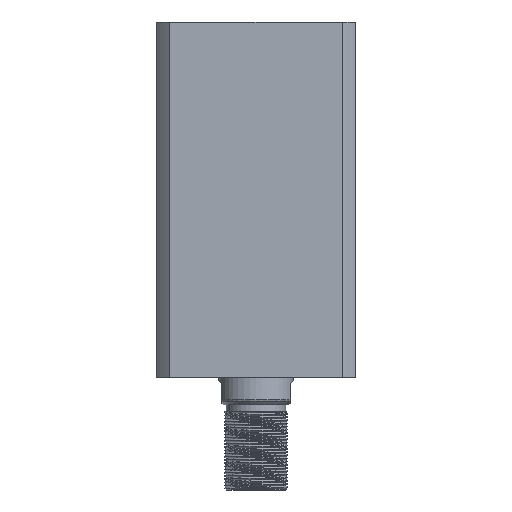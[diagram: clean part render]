
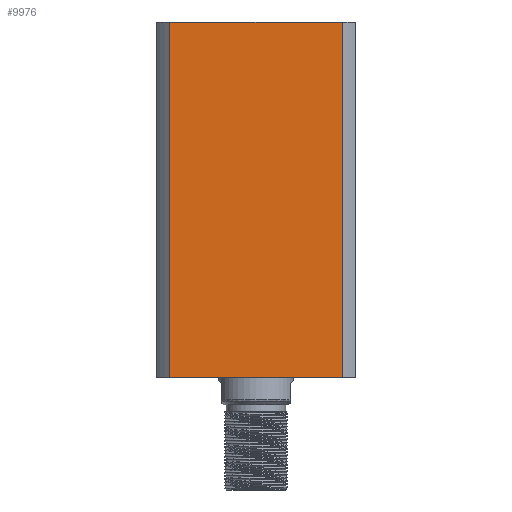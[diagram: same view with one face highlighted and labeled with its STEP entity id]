
A CAD part, front view. The second image highlights one B-rep face of the part: STEP entity #9976.
In plain terms, the highlighted planar face has unit normal (0, -1, 0) as drawn and (0, 1, 0) by its records, which use the part's own axes.
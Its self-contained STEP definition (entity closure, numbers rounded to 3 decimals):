
#1450 = DIRECTION ( 'NONE',  ( -1., 0., 0. ) ) ;
#1824 = CARTESIAN_POINT ( 'NONE',  ( -47., 47., 0. ) ) ;
#2117 = VERTEX_POINT ( 'NONE', #14308 ) ;
#2176 = PLANE ( 'NONE',  #3071 ) ;
#2489 = CARTESIAN_POINT ( 'NONE',  ( -40.435, 47., -2833. ) ) ;
#2600 = LINE ( 'NONE', #12973, #16050 ) ;
#3071 = AXIS2_PLACEMENT_3D ( 'NONE', #5552, #14530, #3926 ) ;
#3182 = CARTESIAN_POINT ( 'NONE',  ( -47., 47., 167. ) ) ;
#3219 = EDGE_CURVE ( 'NONE', #14802, #2117, #2600, .T. ) ;
#3347 = FACE_OUTER_BOUND ( 'NONE', #11949, .T. ) ;
#3649 = LINE ( 'NONE', #2489, #12522 ) ;
#3926 = DIRECTION ( 'NONE',  ( 0., 0., -1. ) ) ;
#4701 = CARTESIAN_POINT ( 'NONE',  ( -40.435, 47., 167. ) ) ;
#5552 = CARTESIAN_POINT ( 'NONE',  ( -47., 47., 167. ) ) ;
#5617 = VERTEX_POINT ( 'NONE', #4701 ) ;
#7034 = ORIENTED_EDGE ( 'NONE', *, *, #17522, .T. ) ;
#7314 = EDGE_CURVE ( 'NONE', #5617, #7616, #3649, .T. ) ;
#7616 = VERTEX_POINT ( 'NONE', #10117 ) ;
#7874 = ORIENTED_EDGE ( 'NONE', *, *, #13130, .F. ) ;
#9976 = ADVANCED_FACE ( 'NONE', ( #3347 ), #2176, .F. ) ;
#10117 = CARTESIAN_POINT ( 'NONE',  ( -40.435, 47., 0. ) ) ;
#11949 = EDGE_LOOP ( 'NONE', ( #19253, #7034, #15334, #7874 ) ) ;
#12382 = DIRECTION ( 'NONE',  ( -1., 0., 0. ) ) ;
#12522 = VECTOR ( 'NONE', #14767, 1000. ) ;
#12973 = CARTESIAN_POINT ( 'NONE',  ( 40.435, 47., -2833. ) ) ;
#13130 = EDGE_CURVE ( 'NONE', #2117, #5617, #18626, .T. ) ;
#14308 = CARTESIAN_POINT ( 'NONE',  ( 40.435, 47., 167. ) ) ;
#14530 = DIRECTION ( 'NONE',  ( 0., -1., 0. ) ) ;
#14733 = DIRECTION ( 'NONE',  ( 0., 0., 1. ) ) ;
#14767 = DIRECTION ( 'NONE',  ( 0., 0., -1. ) ) ;
#14802 = VERTEX_POINT ( 'NONE', #19611 ) ;
#15334 = ORIENTED_EDGE ( 'NONE', *, *, #7314, .F. ) ;
#16050 = VECTOR ( 'NONE', #14733, 1000. ) ;
#17522 = EDGE_CURVE ( 'NONE', #14802, #7616, #18861, .T. ) ;
#18626 = LINE ( 'NONE', #3182, #20458 ) ;
#18861 = LINE ( 'NONE', #1824, #19393 ) ;
#19253 = ORIENTED_EDGE ( 'NONE', *, *, #3219, .F. ) ;
#19393 = VECTOR ( 'NONE', #12382, 1000. ) ;
#19611 = CARTESIAN_POINT ( 'NONE',  ( 40.435, 47., 0. ) ) ;
#20458 = VECTOR ( 'NONE', #1450, 1000. ) ;
